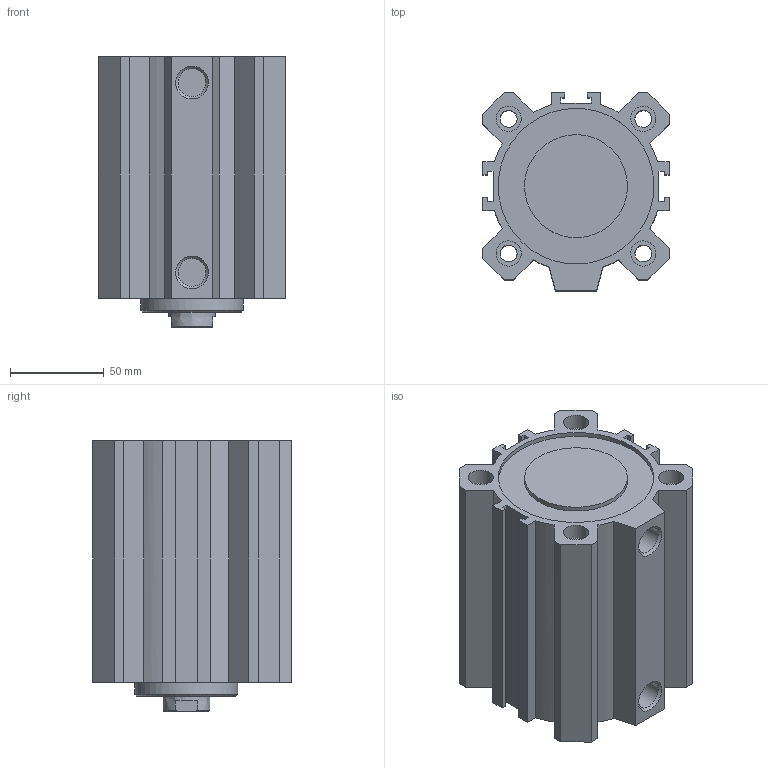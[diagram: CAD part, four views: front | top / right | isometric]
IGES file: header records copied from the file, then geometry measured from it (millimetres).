
Global section: file name: 1511_80_0080; native system: Autodesk Inventor 2014; preprocessor: unknown; author: A. Manieri; date: 20160824.142258; units: millimetre
Bounding box: 100 x 106 x 144.5 mm (x, y, z)
Volume: 698440.5 mm3; surface area: 163671.7 mm2
Topology: 2 solids, 2 shells, 119 faces, 307 edges, 210 vertices
Faces by surface type: bspline 119
